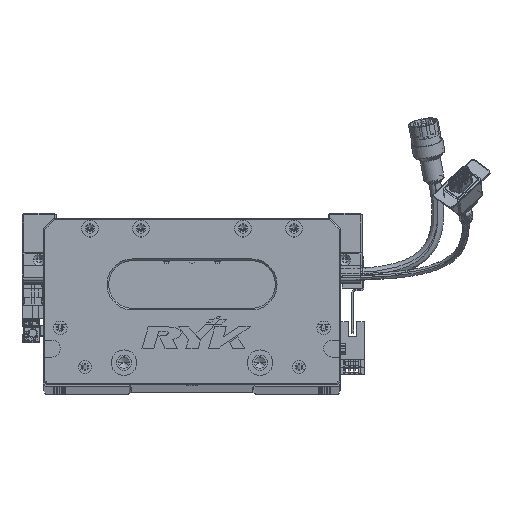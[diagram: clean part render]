
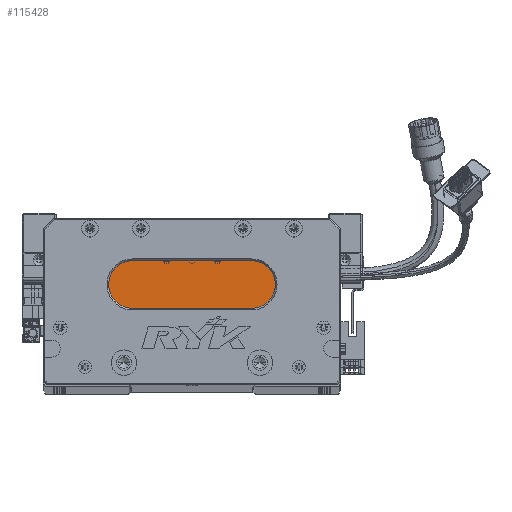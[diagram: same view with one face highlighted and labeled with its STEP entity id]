
A CAD part, top view. The second image highlights one B-rep face of the part: STEP entity #115428.
In plain terms, the highlighted planar face has unit normal (0, 0, 1) as drawn and (0, 0, -1) by its records, which use the part's own axes.
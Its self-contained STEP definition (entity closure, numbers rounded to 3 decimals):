
#272 = DIRECTION ( 'NONE',  ( -1., 0., 0. ) ) ;
#1878 = CIRCLE ( 'NONE', #54361, 14. ) ;
#6125 = DIRECTION ( 'NONE',  ( 0., 0., -1. ) ) ;
#9258 = CARTESIAN_POINT ( 'NONE',  ( 122.5, 45., 18. ) ) ;
#11730 = CARTESIAN_POINT ( 'NONE',  ( 38.5, 59., 18. ) ) ;
#14603 = DIRECTION ( 'NONE',  ( -1., 0., 0. ) ) ;
#24655 = DIRECTION ( 'NONE',  ( 0., 0., -1. ) ) ;
#25963 = ORIENTED_EDGE ( 'NONE', *, *, #99638, .T. ) ;
#26259 = AXIS2_PLACEMENT_3D ( 'NONE', #110899, #6125, #110471 ) ;
#30275 = VERTEX_POINT ( 'NONE', #11730 ) ;
#31069 = LINE ( 'NONE', #98234, #49158 ) ;
#33455 = EDGE_CURVE ( 'NONE', #124293, #113372, #31069, .T. ) ;
#38032 = DIRECTION ( 'NONE',  ( -1., 0., 0. ) ) ;
#39477 = LINE ( 'NONE', #123809, #67974 ) ;
#39685 = VERTEX_POINT ( 'NONE', #9258 ) ;
#41418 = EDGE_CURVE ( 'NONE', #30275, #124293, #1878, .T. ) ;
#45579 = CARTESIAN_POINT ( 'NONE',  ( 52.5, 73., 18. ) ) ;
#46069 = FACE_OUTER_BOUND ( 'NONE', #96183, .T. ) ;
#46326 = CIRCLE ( 'NONE', #74388, 14. ) ;
#49158 = VECTOR ( 'NONE', #78194, 1000. ) ;
#54212 = DIRECTION ( 'NONE',  ( -1., 0., 0. ) ) ;
#54361 = AXIS2_PLACEMENT_3D ( 'NONE', #76612, #95399, #38032 ) ;
#55085 = ORIENTED_EDGE ( 'NONE', *, *, #90101, .T. ) ;
#60790 = AXIS2_PLACEMENT_3D ( 'NONE', #83411, #101925, #54212 ) ;
#67591 = VERTEX_POINT ( 'NONE', #93967 ) ;
#67974 = VECTOR ( 'NONE', #272, 1000. ) ;
#73262 = ORIENTED_EDGE ( 'NONE', *, *, #114394, .T. ) ;
#74388 = AXIS2_PLACEMENT_3D ( 'NONE', #82010, #24655, #14603 ) ;
#76612 = CARTESIAN_POINT ( 'NONE',  ( 52.5, 59., 18. ) ) ;
#78194 = DIRECTION ( 'NONE',  ( 1., 0., 0. ) ) ;
#80535 = ORIENTED_EDGE ( 'NONE', *, *, #41418, .T. ) ;
#82010 = CARTESIAN_POINT ( 'NONE',  ( 122.5, 59., 18. ) ) ;
#83411 = CARTESIAN_POINT ( 'NONE',  ( 122.5, 59., 18. ) ) ;
#90101 = EDGE_CURVE ( 'NONE', #67591, #30275, #115101, .T. ) ;
#92596 = ORIENTED_EDGE ( 'NONE', *, *, #33455, .T. ) ;
#93967 = CARTESIAN_POINT ( 'NONE',  ( 52.5, 45., 18. ) ) ;
#95399 = DIRECTION ( 'NONE',  ( 0., 0., -1. ) ) ;
#96183 = EDGE_LOOP ( 'NONE', ( #73262, #25963, #55085, #80535, #92596 ) ) ;
#97249 = CARTESIAN_POINT ( 'NONE',  ( 122.5, 73., 18. ) ) ;
#98234 = CARTESIAN_POINT ( 'NONE',  ( 122.5, 73., 18. ) ) ;
#99638 = EDGE_CURVE ( 'NONE', #39685, #67591, #39477, .T. ) ;
#101925 = DIRECTION ( 'NONE',  ( 0., 0., -1. ) ) ;
#103159 = PLANE ( 'NONE',  #60790 ) ;
#110471 = DIRECTION ( 'NONE',  ( -1., 0., 0. ) ) ;
#110899 = CARTESIAN_POINT ( 'NONE',  ( 52.5, 59., 18. ) ) ;
#113372 = VERTEX_POINT ( 'NONE', #97249 ) ;
#114394 = EDGE_CURVE ( 'NONE', #113372, #39685, #46326, .T. ) ;
#115101 = CIRCLE ( 'NONE', #26259, 14. ) ;
#115428 = ADVANCED_FACE ( 'NONE', ( #46069 ), #103159, .T. ) ;
#123809 = CARTESIAN_POINT ( 'NONE',  ( 122.5, 45., 18. ) ) ;
#124293 = VERTEX_POINT ( 'NONE', #45579 ) ;
